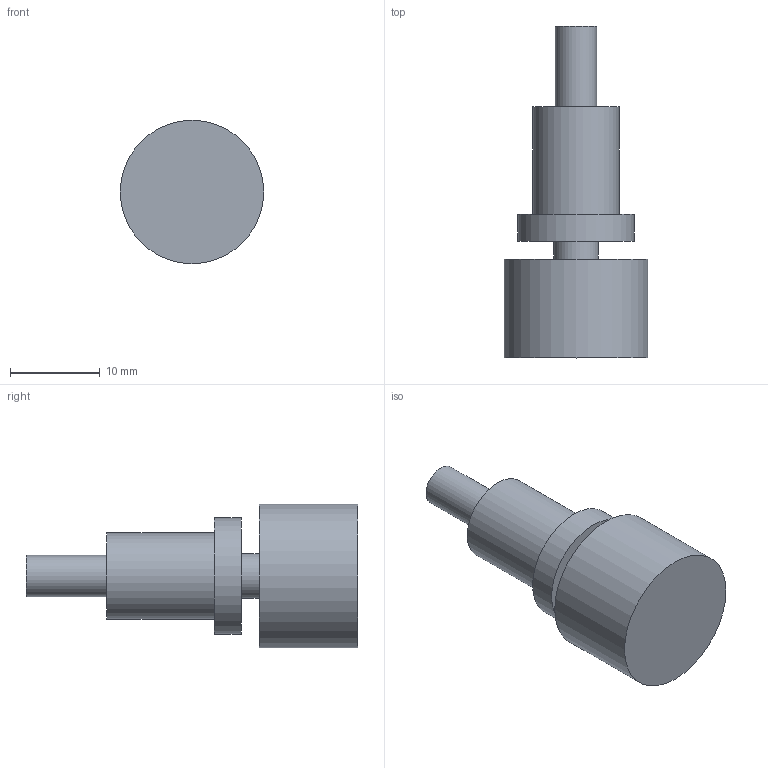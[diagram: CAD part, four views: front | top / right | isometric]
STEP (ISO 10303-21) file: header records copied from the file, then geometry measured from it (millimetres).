
FILE_DESCRIPTION(('Open CASCADE Model'),'2;1');
FILE_NAME('Open CASCADE Shape Model','2026-10-16T04:49:52',('Author'),( 'Open CASCADE'),'Open CASCADE STEP processor 7.9','Open CASCADE 7.9' ,'Unknown');
FILE_SCHEMA(('AUTOMOTIVE_DESIGN { 1 0 10303 214 1 1 1 1 }'));
Length unit declared in the file: millimetre
Products named in the file (1): Open CASCADE STEP translator 7.9 2
Bounding box: 16 x 37 x 16 mm (x, y, z)
Volume: 3667.3 mm3; surface area: 1827.2 mm2
Topology: 1 solids, 1 shells, 11 faces, 15 edges, 10 vertices
Faces by surface type: plane 6, cylinder 5
Full cylindrical faces by diameter (mm): 4.6 x1, 5 x1, 9.6 x1, 13 x1, 16 x1
Entity records: 444 total; most frequent: DIRECTION 79, CARTESIAN_POINT 67, ORIENTED_EDGE 30, PCURVE 30, DEFINITIONAL_REPRESENTATION 30, LINE 25, VECTOR 25, AXIS2_PLACEMENT_3D 22
